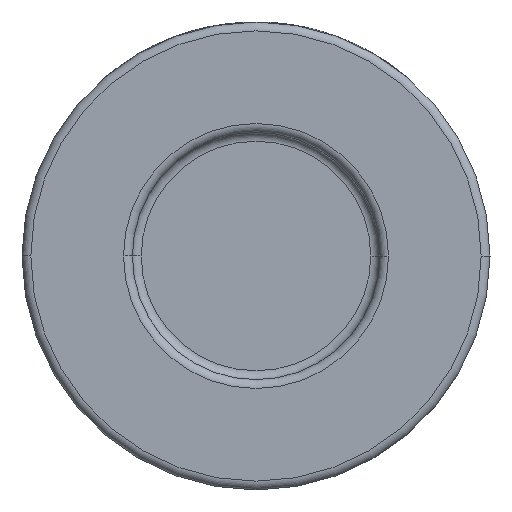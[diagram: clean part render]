
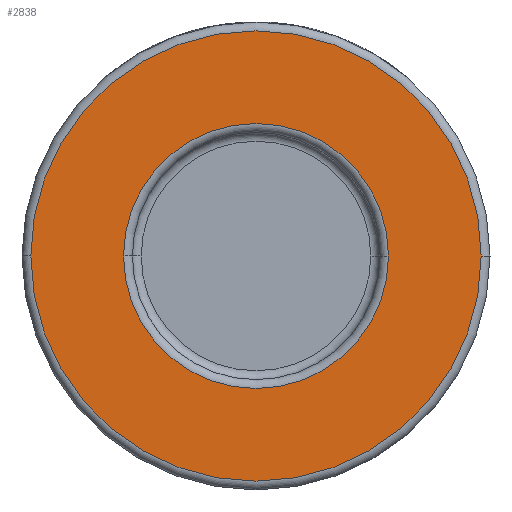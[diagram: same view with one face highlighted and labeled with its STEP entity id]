
A CAD part, front view. The second image highlights one B-rep face of the part: STEP entity #2838.
In plain terms, the highlighted planar face has unit normal (0, -1, 0).
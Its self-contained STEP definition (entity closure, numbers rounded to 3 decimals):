
#117 = DIRECTION ( 'NONE',  ( 0., -1., 0. ) ) ;
#481 = CIRCLE ( 'NONE', #1884, 25.5 ) ;
#656 = CARTESIAN_POINT ( 'NONE',  ( 25.5, -20., 0. ) ) ;
#791 = CARTESIAN_POINT ( 'NONE',  ( -15., -20., 0. ) ) ;
#798 = DIRECTION ( 'NONE',  ( 0., -1., 0. ) ) ;
#826 = CIRCLE ( 'NONE', #3394, 25.5 ) ;
#851 = DIRECTION ( 'NONE',  ( 0., -1., 0. ) ) ;
#902 = VERTEX_POINT ( 'NONE', #3672 ) ;
#918 = EDGE_CURVE ( 'NONE', #2539, #2060, #481, .T. ) ;
#958 = ORIENTED_EDGE ( 'NONE', *, *, #3464, .T. ) ;
#978 = ORIENTED_EDGE ( 'NONE', *, *, #2275, .T. ) ;
#1219 = CARTESIAN_POINT ( 'NONE',  ( 0., -20., 0. ) ) ;
#1370 = CARTESIAN_POINT ( 'NONE',  ( 0., -20., 0. ) ) ;
#1559 = DIRECTION ( 'NONE',  ( 1., 0., 0. ) ) ;
#1770 = CARTESIAN_POINT ( 'NONE',  ( 26.5, -20., 0. ) ) ;
#1884 = AXIS2_PLACEMENT_3D ( 'NONE', #1219, #851, #3309 ) ;
#2060 = VERTEX_POINT ( 'NONE', #2976 ) ;
#2208 = FACE_BOUND ( 'NONE', #2435, .T. ) ;
#2275 = EDGE_CURVE ( 'NONE', #2371, #902, #2650, .T. ) ;
#2371 = VERTEX_POINT ( 'NONE', #791 ) ;
#2378 = DIRECTION ( 'NONE',  ( 0., 1., 0. ) ) ;
#2435 = EDGE_LOOP ( 'NONE', ( #3694, #978 ) ) ;
#2539 = VERTEX_POINT ( 'NONE', #656 ) ;
#2603 = CARTESIAN_POINT ( 'NONE',  ( 0., -20., 0. ) ) ;
#2650 = CIRCLE ( 'NONE', #3460, 15. ) ;
#2836 = PLANE ( 'NONE',  #3980 ) ;
#2838 = ADVANCED_FACE ( 'NONE', ( #2208, #3579 ), #2836, .T. ) ;
#2964 = DIRECTION ( 'NONE',  ( 1., 0., 0. ) ) ;
#2976 = CARTESIAN_POINT ( 'NONE',  ( -25.5, -20., 0. ) ) ;
#3161 = DIRECTION ( 'NONE',  ( 1., 0., 0. ) ) ;
#3252 = DIRECTION ( 'NONE',  ( 0., 1., 0. ) ) ;
#3309 = DIRECTION ( 'NONE',  ( 1., 0., 0. ) ) ;
#3311 = CARTESIAN_POINT ( 'NONE',  ( 0., -20., 0. ) ) ;
#3394 = AXIS2_PLACEMENT_3D ( 'NONE', #3311, #117, #2964 ) ;
#3460 = AXIS2_PLACEMENT_3D ( 'NONE', #1370, #2378, #3777 ) ;
#3461 = EDGE_LOOP ( 'NONE', ( #3497, #958 ) ) ;
#3464 = EDGE_CURVE ( 'NONE', #2060, #2539, #826, .T. ) ;
#3497 = ORIENTED_EDGE ( 'NONE', *, *, #918, .T. ) ;
#3579 = FACE_OUTER_BOUND ( 'NONE', #3461, .T. ) ;
#3672 = CARTESIAN_POINT ( 'NONE',  ( 15., -20., 0. ) ) ;
#3694 = ORIENTED_EDGE ( 'NONE', *, *, #4409, .T. ) ;
#3777 = DIRECTION ( 'NONE',  ( 1., 0., 0. ) ) ;
#3838 = CIRCLE ( 'NONE', #3915, 15. ) ;
#3915 = AXIS2_PLACEMENT_3D ( 'NONE', #2603, #3252, #1559 ) ;
#3980 = AXIS2_PLACEMENT_3D ( 'NONE', #1770, #798, #3161 ) ;
#4409 = EDGE_CURVE ( 'NONE', #902, #2371, #3838, .T. ) ;
